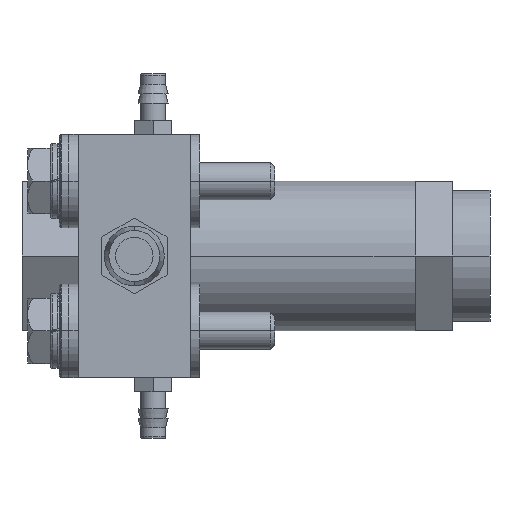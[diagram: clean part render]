
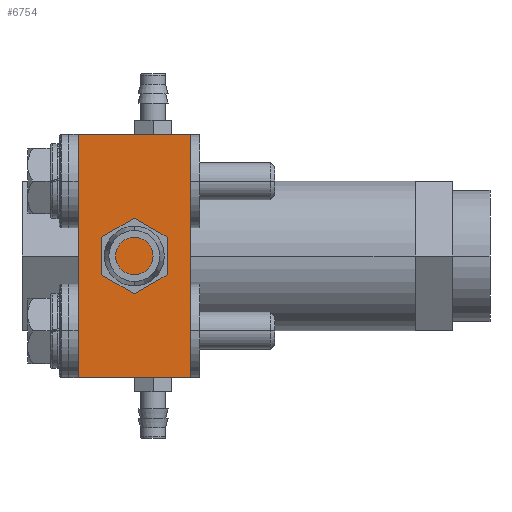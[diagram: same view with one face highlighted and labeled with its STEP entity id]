
A CAD part, front view. The second image highlights one B-rep face of the part: STEP entity #6754.
In plain terms, the highlighted planar face has unit normal (0, -1, 0).
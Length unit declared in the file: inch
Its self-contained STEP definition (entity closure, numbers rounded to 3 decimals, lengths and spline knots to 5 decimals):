
#6351=DIRECTION('',(0.,0.,-1.));
#6352=VECTOR('',#6351,1.625);
#6353=CARTESIAN_POINT('',(-2.,-1.25,0.8125));
#6354=LINE('',#6353,#6352);
#6459=DIRECTION('',(1.,0.,0.));
#6460=VECTOR('',#6459,0.75);
#6461=CARTESIAN_POINT('',(-2.75,-1.25,-0.8125));
#6462=LINE('',#6461,#6460);
#6463=DIRECTION('',(0.,0.,-1.));
#6464=VECTOR('',#6463,1.625);
#6465=CARTESIAN_POINT('',(-2.75,-1.25,0.8125));
#6466=LINE('',#6465,#6464);
#6467=DIRECTION('',(-1.,0.,0.));
#6468=VECTOR('',#6467,0.75);
#6469=CARTESIAN_POINT('',(-2.,-1.25,0.8125));
#6470=LINE('',#6469,#6468);
#6471=CARTESIAN_POINT('',(-2.,-1.25,0.8125));
#6472=CARTESIAN_POINT('',(-2.,-1.25,-0.8125));
#6473=VERTEX_POINT('',#6471);
#6474=VERTEX_POINT('',#6472);
#6477=CARTESIAN_POINT('',(-2.75,-1.25,0.8125));
#6478=VERTEX_POINT('',#6477);
#6479=CARTESIAN_POINT('',(-2.75,-1.25,-0.8125));
#6480=VERTEX_POINT('',#6479);
#6743=CARTESIAN_POINT('',(-2.75,-1.25,-0.8125));
#6744=DIRECTION('',(0.,-1.,0.));
#6745=DIRECTION('',(-1.,0.,0.));
#6746=AXIS2_PLACEMENT_3D('',#6743,#6744,#6745);
#6747=PLANE('',#6746);
#6748=ORIENTED_EDGE('',*,*,#6540,.T.);
#6749=ORIENTED_EDGE('',*,*,#6712,.F.);
#6750=ORIENTED_EDGE('',*,*,#6598,.F.);
#6751=ORIENTED_EDGE('',*,*,#6736,.F.);
#6752=EDGE_LOOP('',(#6748,#6749,#6750,#6751));
#6753=FACE_OUTER_BOUND('',#6752,.F.);
#6540=EDGE_CURVE('',#6473,#6474,#6354,.T.);
#6598=EDGE_CURVE('',#6478,#6480,#6466,.T.);
#6712=EDGE_CURVE('',#6480,#6474,#6462,.T.);
#6736=EDGE_CURVE('',#6473,#6478,#6470,.T.);
#6754=ADVANCED_FACE('',(#6753),#6747,.T.);
